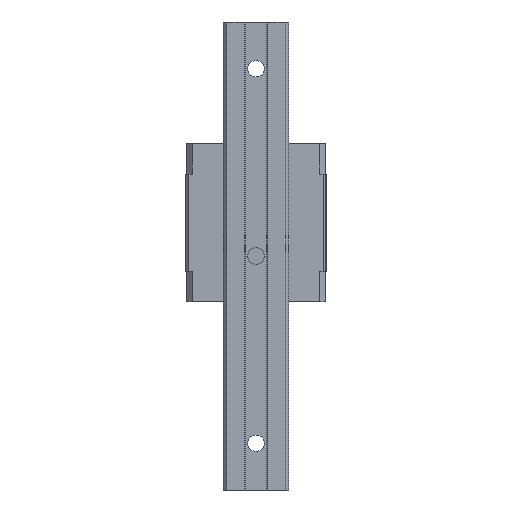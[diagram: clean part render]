
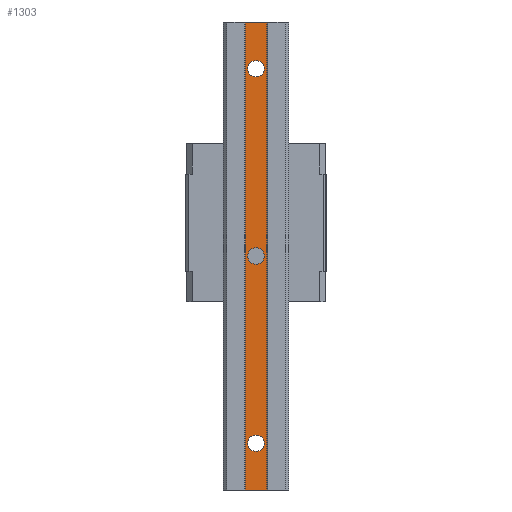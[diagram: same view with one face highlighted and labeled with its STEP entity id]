
A CAD part, front view. The second image highlights one B-rep face of the part: STEP entity #1303.
In plain terms, the highlighted planar face has unit normal (0, -1, 0).
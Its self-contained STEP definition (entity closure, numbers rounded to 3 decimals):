
#269=DIRECTION('',(-1.,0.,0.));
#270=VECTOR('',#269,9.);
#271=CARTESIAN_POINT('',(4.5,-22.5,-135.));
#272=LINE('',#271,#270);
#273=DIRECTION('',(0.,0.,-1.));
#274=VECTOR('',#273,200.);
#275=CARTESIAN_POINT('',(4.5,-22.5,65.));
#276=LINE('',#275,#274);
#277=CARTESIAN_POINT('',(0.,-22.5,45.));
#278=DIRECTION('',(0.,-1.,0.));
#279=DIRECTION('',(0.,0.,1.));
#280=AXIS2_PLACEMENT_3D('',#277,#278,#279);
#282=CARTESIAN_POINT('',(0.,-22.5,45.));
#283=DIRECTION('',(0.,-1.,0.));
#284=DIRECTION('',(0.,0.,-1.));
#285=AXIS2_PLACEMENT_3D('',#282,#283,#284);
#287=CARTESIAN_POINT('',(0.,-22.5,-35.));
#288=DIRECTION('',(0.,-1.,0.));
#289=DIRECTION('',(0.,0.,1.));
#290=AXIS2_PLACEMENT_3D('',#287,#288,#289);
#292=CARTESIAN_POINT('',(0.,-22.5,-35.));
#293=DIRECTION('',(0.,-1.,0.));
#294=DIRECTION('',(0.,0.,-1.));
#295=AXIS2_PLACEMENT_3D('',#292,#293,#294);
#297=CARTESIAN_POINT('',(0.,-22.5,-115.));
#298=DIRECTION('',(0.,-1.,0.));
#299=DIRECTION('',(0.,0.,1.));
#300=AXIS2_PLACEMENT_3D('',#297,#298,#299);
#302=CARTESIAN_POINT('',(0.,-22.5,-115.));
#303=DIRECTION('',(0.,-1.,0.));
#304=DIRECTION('',(0.,0.,-1.));
#305=AXIS2_PLACEMENT_3D('',#302,#303,#304);
#307=DIRECTION('',(0.,0.,-1.));
#308=VECTOR('',#307,200.);
#309=CARTESIAN_POINT('',(-4.5,-22.5,65.));
#310=LINE('',#309,#308);
#482=DIRECTION('',(-1.,0.,0.));
#483=VECTOR('',#482,9.);
#484=CARTESIAN_POINT('',(4.5,-22.5,65.));
#485=LINE('',#484,#483);
#693=CARTESIAN_POINT('',(-4.5,-22.5,-135.));
#694=VERTEX_POINT('',#693);
#695=CARTESIAN_POINT('',(4.5,-22.5,-135.));
#696=VERTEX_POINT('',#695);
#793=CARTESIAN_POINT('',(4.5,-22.5,65.));
#794=VERTEX_POINT('',#793);
#795=CARTESIAN_POINT('',(-4.5,-22.5,65.));
#796=VERTEX_POINT('',#795);
#797=CARTESIAN_POINT('',(0.,-22.5,48.5));
#798=CARTESIAN_POINT('',(0.,-22.5,41.5));
#799=VERTEX_POINT('',#797);
#800=VERTEX_POINT('',#798);
#801=CARTESIAN_POINT('',(0.,-22.5,-31.5));
#802=CARTESIAN_POINT('',(0.,-22.5,-38.5));
#803=VERTEX_POINT('',#801);
#804=VERTEX_POINT('',#802);
#805=CARTESIAN_POINT('',(0.,-22.5,-111.5));
#806=CARTESIAN_POINT('',(0.,-22.5,-118.5));
#807=VERTEX_POINT('',#805);
#808=VERTEX_POINT('',#806);
#1272=CARTESIAN_POINT('',(-4.5,-22.5,-100.1));
#1273=DIRECTION('',(0.,-1.,0.));
#1274=DIRECTION('',(1.,0.,0.));
#1275=AXIS2_PLACEMENT_3D('',#1272,#1273,#1274);
#1276=PLANE('',#1275);
#1277=ORIENTED_EDGE('',*,*,#898,.T.);
#1279=ORIENTED_EDGE('',*,*,#1278,.F.);
#1281=ORIENTED_EDGE('',*,*,#1280,.F.);
#1282=ORIENTED_EDGE('',*,*,#1264,.T.);
#1283=EDGE_LOOP('',(#1277,#1279,#1281,#1282));
#1284=FACE_OUTER_BOUND('',#1283,.F.);
#1286=ORIENTED_EDGE('',*,*,#1285,.T.);
#1288=ORIENTED_EDGE('',*,*,#1287,.T.);
#1289=EDGE_LOOP('',(#1286,#1288));
#1290=FACE_BOUND('',#1289,.F.);
#1292=ORIENTED_EDGE('',*,*,#1291,.T.);
#1294=ORIENTED_EDGE('',*,*,#1293,.T.);
#1295=EDGE_LOOP('',(#1292,#1294));
#1296=FACE_BOUND('',#1295,.F.);
#1298=ORIENTED_EDGE('',*,*,#1297,.T.);
#1300=ORIENTED_EDGE('',*,*,#1299,.T.);
#1301=EDGE_LOOP('',(#1298,#1300));
#1302=FACE_BOUND('',#1301,.F.);
#1303=ADVANCED_FACE('',(#1284,#1290,#1296,#1302),#1276,.T.);
#281=CIRCLE('',#280,3.5);
#286=CIRCLE('',#285,3.5);
#291=CIRCLE('',#290,3.5);
#296=CIRCLE('',#295,3.5);
#301=CIRCLE('',#300,3.5);
#306=CIRCLE('',#305,3.5);
#898=EDGE_CURVE('',#696,#694,#272,.T.);
#1264=EDGE_CURVE('',#794,#696,#276,.T.);
#1278=EDGE_CURVE('',#796,#694,#310,.T.);
#1280=EDGE_CURVE('',#794,#796,#485,.T.);
#1285=EDGE_CURVE('',#799,#800,#281,.T.);
#1287=EDGE_CURVE('',#800,#799,#286,.T.);
#1291=EDGE_CURVE('',#803,#804,#291,.T.);
#1293=EDGE_CURVE('',#804,#803,#296,.T.);
#1297=EDGE_CURVE('',#807,#808,#301,.T.);
#1299=EDGE_CURVE('',#808,#807,#306,.T.);
